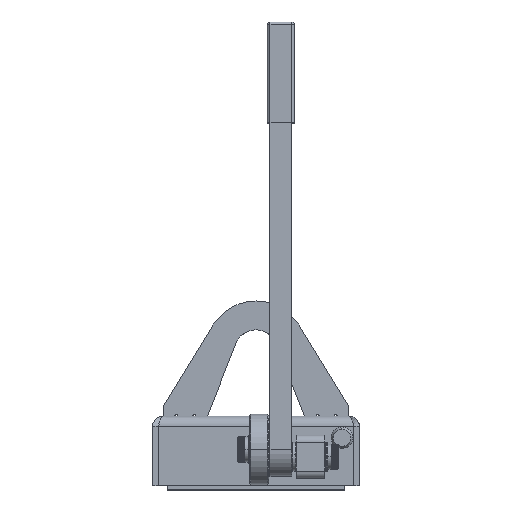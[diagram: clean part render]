
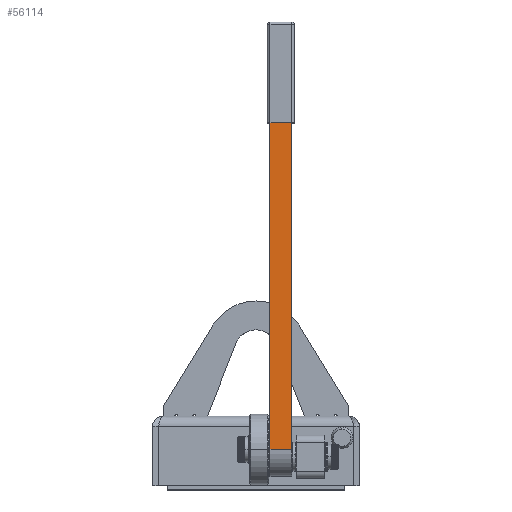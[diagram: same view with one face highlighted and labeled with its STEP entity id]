
A CAD part, top view. The second image highlights one B-rep face of the part: STEP entity #56114.
In plain terms, the highlighted planar face has unit normal (0, 0, 1).
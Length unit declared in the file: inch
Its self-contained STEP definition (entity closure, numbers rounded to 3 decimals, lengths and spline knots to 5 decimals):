
#3306 = CARTESIAN_POINT ( 'NONE',  ( 1.23487, -0.969, 5.49975 ) ) ;
#14552 = VERTEX_POINT ( 'NONE', #116246 ) ;
#17222 = VECTOR ( 'NONE', #81001, 39.37008 ) ;
#20286 = LINE ( 'NONE', #3306, #17222 ) ;
#27581 = CARTESIAN_POINT ( 'NONE',  ( 1.23487, -0.969, 5.49975 ) ) ;
#31358 = LINE ( 'NONE', #93262, #108745 ) ;
#32172 = EDGE_CURVE ( 'NONE', #14552, #124202, #73099, .T. ) ;
#36318 = ORIENTED_EDGE ( 'NONE', *, *, #83062, .F. ) ;
#40664 = LINE ( 'NONE', #49545, #114970 ) ;
#47362 = CARTESIAN_POINT ( 'NONE',  ( 0.48487, -0.969, 5.49975 ) ) ;
#49168 = CARTESIAN_POINT ( 'NONE',  ( 1.23488, 13.49975, 5.49975 ) ) ;
#49545 = CARTESIAN_POINT ( 'NONE',  ( 1.23488, 13.49975, 5.49975 ) ) ;
#50731 = EDGE_CURVE ( 'NONE', #91071, #124202, #31358, .T. ) ;
#53148 = CARTESIAN_POINT ( 'NONE',  ( 0.48487, 13.49975, 5.49975 ) ) ;
#56114 = ADVANCED_FACE ( 'NONE', ( #87983 ), #72092, .F. ) ;
#61497 = DIRECTION ( 'NONE',  ( 0., 1., 0. ) ) ;
#71373 = ORIENTED_EDGE ( 'NONE', *, *, #87723, .T. ) ;
#71467 = ORIENTED_EDGE ( 'NONE', *, *, #32172, .F. ) ;
#71693 = CARTESIAN_POINT ( 'NONE',  ( 1.23487, -0.969, 5.49975 ) ) ;
#72092 = PLANE ( 'NONE',  #97228 ) ;
#73099 = LINE ( 'NONE', #27581, #74589 ) ;
#74589 = VECTOR ( 'NONE', #86159, 39.37008 ) ;
#75039 = DIRECTION ( 'NONE',  ( 0., -1., 0. ) ) ;
#81001 = DIRECTION ( 'NONE',  ( 0., -1., 0. ) ) ;
#83062 = EDGE_CURVE ( 'NONE', #95395, #14552, #20286, .T. ) ;
#86159 = DIRECTION ( 'NONE',  ( -1., 0., 0. ) ) ;
#86638 = EDGE_LOOP ( 'NONE', ( #111789, #71467, #36318, #71373 ) ) ;
#87723 = EDGE_CURVE ( 'NONE', #95395, #91071, #40664, .T. ) ;
#87983 = FACE_OUTER_BOUND ( 'NONE', #86638, .T. ) ;
#91071 = VERTEX_POINT ( 'NONE', #53148 ) ;
#91586 = DIRECTION ( 'NONE',  ( 0., 0., -1. ) ) ;
#93262 = CARTESIAN_POINT ( 'NONE',  ( 0.48487, -0.969, 5.49975 ) ) ;
#95395 = VERTEX_POINT ( 'NONE', #49168 ) ;
#97228 = AXIS2_PLACEMENT_3D ( 'NONE', #71693, #91586, #61497 ) ;
#108745 = VECTOR ( 'NONE', #75039, 39.37008 ) ;
#111789 = ORIENTED_EDGE ( 'NONE', *, *, #50731, .T. ) ;
#114970 = VECTOR ( 'NONE', #117355, 39.37008 ) ;
#116246 = CARTESIAN_POINT ( 'NONE',  ( 1.23487, -0.969, 5.49975 ) ) ;
#117355 = DIRECTION ( 'NONE',  ( -1., 0., 0. ) ) ;
#124202 = VERTEX_POINT ( 'NONE', #47362 ) ;
